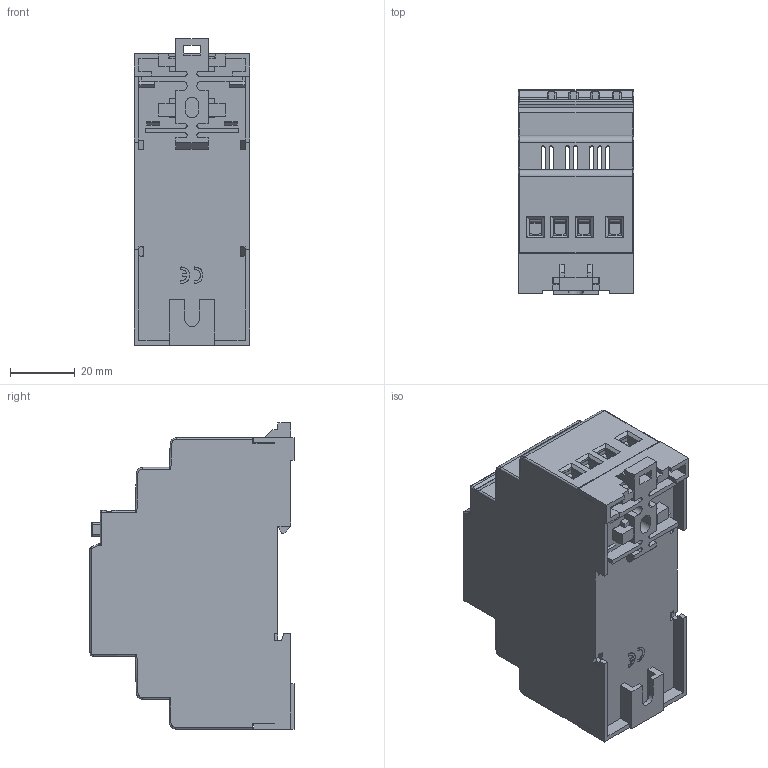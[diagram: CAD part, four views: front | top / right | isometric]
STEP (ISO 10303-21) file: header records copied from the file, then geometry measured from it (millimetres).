
FILE_DESCRIPTION(/* description */ ('Unknown'),/* implementation_level */ '2;1');
FILE_NAME(/* name */ '1222',/* time_stamp */ '2016-12-21T10:20:05+01:00',/* author */ ('Unknown'),/* organization */ ('Unknown'),/* preprocessor_version */ 'ST-DEVELOPER v16.7',/* originating_system */ 'DEX',/* authorisation */ $);
FILE_SCHEMA (('AUTOMOTIVE_DESIGN {1 0 10303 214 3 1 1}'));
Products named in the file (3): 122X; top; top0
Assembly tree (2 placements, depth 3):
  122X
    top
      top0
Bounding box: 35.8 x 63 x 94.55 mm (x, y, z)
Surface area: 34898.6 mm2 (no closed solid volume)
Topology: 0 solids, 1569 shells, 1569 faces, 8092 edges, 8088 vertices
Faces by surface type: plane 930, cylinder 382, torus 100, bspline 73, cone 48, sphere 36
Entity records: 97200 total; most frequent: CARTESIAN_POINT 22996, DIRECTION 12293, ORIENTED_EDGE 8088, EDGE_CURVE 8088, VERTEX_POINT 8088, LINE 5633, VECTOR 5633, AXIS2_PLACEMENT_3D 3330
